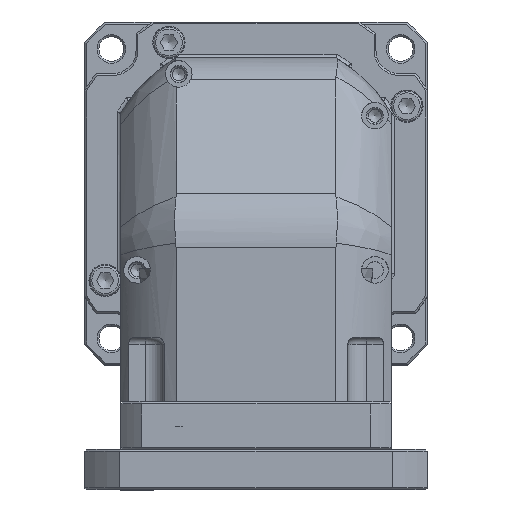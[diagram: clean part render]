
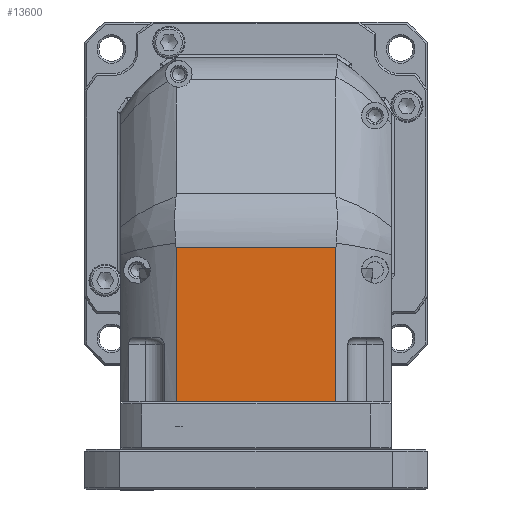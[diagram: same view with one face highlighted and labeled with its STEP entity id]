
A CAD part, top view. The second image highlights one B-rep face of the part: STEP entity #13600.
In plain terms, the highlighted planar face has unit normal (0, 0, 1) as drawn and (0, 0, -1) by its records, which use the part's own axes.
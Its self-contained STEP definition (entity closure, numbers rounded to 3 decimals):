
#11296=CARTESIAN_POINT('',(-42.015,-110.,0.0));
#11297=VERTEX_POINT('',#11296);
#11305=CARTESIAN_POINT('',(42.015,-110.,0.0));
#11306=VERTEX_POINT('',#11305);
#11307=CARTESIAN_POINT('',(42.015,-110.,0.0));
#11308=DIRECTION('',(-1.0,0.0,0.0));
#11309=VECTOR('',#11308,84.03);
#11310=LINE('',#11307,#11309);
#11311=EDGE_CURVE('',#11306,#11297,#11310,.T.);
#12262=CARTESIAN_POINT('',(42.015,-28.75,0.0));
#12263=VERTEX_POINT('',#12262);
#12271=CARTESIAN_POINT('',(-42.015,-28.75,0.));
#12272=VERTEX_POINT('',#12271);
#12273=CARTESIAN_POINT('',(42.015,-28.75,0.0));
#12274=DIRECTION('',(-1.0,0.0,0.0));
#12275=VECTOR('',#12274,84.03);
#12276=LINE('',#12273,#12275);
#12277=EDGE_CURVE('',#12263,#12272,#12276,.T.);
#12360=CARTESIAN_POINT('',(-42.015,-110.,0.));
#12361=DIRECTION('',(0.0,1.0,0.0));
#12362=VECTOR('',#12361,81.25);
#12363=LINE('',#12360,#12362);
#12364=EDGE_CURVE('',#11297,#12272,#12363,.T.);
#13470=CARTESIAN_POINT('',(42.015,-28.75,0.0));
#13471=DIRECTION('',(0.0,-1.0,0.0));
#13472=VECTOR('',#13471,81.25);
#13473=LINE('',#13470,#13472);
#13474=EDGE_CURVE('',#12263,#11306,#13473,.T.);
#13589=CARTESIAN_POINT('',(0.,0.,0.0));
#13590=DIRECTION('',(0.0,0.0,1.0));
#13591=DIRECTION('',(1.0,0.0,0.0));
#13592=AXIS2_PLACEMENT_3D('',#13589,#13590,#13591);
#13593=PLANE('',#13592);
#13594=ORIENTED_EDGE('',*,*,#11311,.T.);
#13595=ORIENTED_EDGE('',*,*,#12364,.T.);
#13596=ORIENTED_EDGE('',*,*,#12277,.F.);
#13597=ORIENTED_EDGE('',*,*,#13474,.T.);
#13598=EDGE_LOOP('',(#13594,#13595,#13596,#13597));
#13599=FACE_OUTER_BOUND('',#13598,.T.);
#13600=ADVANCED_FACE('',(#13599),#13593,.F.);
